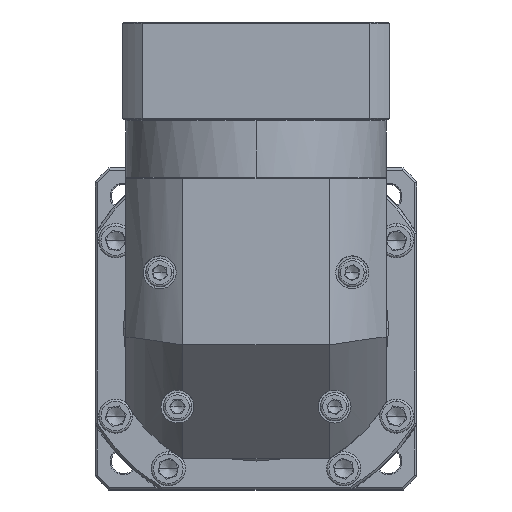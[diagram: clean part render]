
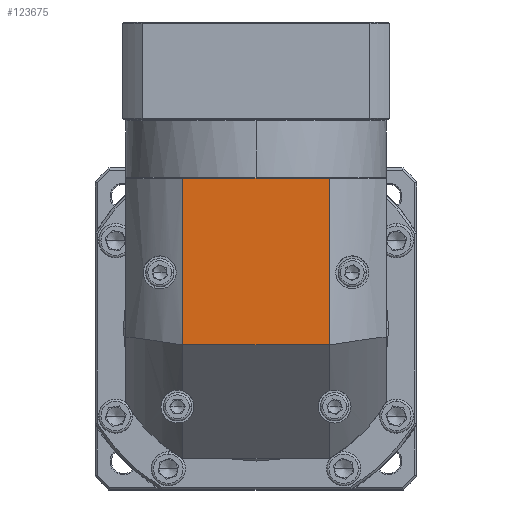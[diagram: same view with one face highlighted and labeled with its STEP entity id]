
A CAD part, top view. The second image highlights one B-rep face of the part: STEP entity #123675.
In plain terms, the highlighted planar face has unit normal (0, 0, 1).
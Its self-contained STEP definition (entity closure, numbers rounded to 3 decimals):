
#2142 = VECTOR ( 'NONE', #41126, 1000. ) ;
#3139 = LINE ( 'NONE', #100165, #77914 ) ;
#3140 = FACE_OUTER_BOUND ( 'NONE', #41715, .T. ) ;
#15648 = PLANE ( 'NONE',  #120924 ) ;
#19144 = DIRECTION ( 'NONE',  ( 0., 1., 0. ) ) ;
#22434 = EDGE_CURVE ( 'NONE', #68024, #34166, #3139, .T. ) ;
#27630 = CARTESIAN_POINT ( 'NONE',  ( -170.858, 70.502, 114.565 ) ) ;
#29277 = CARTESIAN_POINT ( 'NONE',  ( -138.458, 136.402, 114.565 ) ) ;
#30807 = CARTESIAN_POINT ( 'NONE',  ( -203.258, 63.002, 114.565 ) ) ;
#31025 = EDGE_CURVE ( 'NONE', #98092, #43967, #66219, .T. ) ;
#32603 = DIRECTION ( 'NONE',  ( 1., 0., 0. ) ) ;
#34166 = VERTEX_POINT ( 'NONE', #119505 ) ;
#39045 = DIRECTION ( 'NONE',  ( 1., 0., 0. ) ) ;
#41126 = DIRECTION ( 'NONE',  ( 0., -1., 0. ) ) ;
#41715 = EDGE_LOOP ( 'NONE', ( #118766, #92704, #141789, #87003 ) ) ;
#41972 = EDGE_CURVE ( 'NONE', #43967, #68024, #57571, .T. ) ;
#43967 = VERTEX_POINT ( 'NONE', #126816 ) ;
#45542 = CARTESIAN_POINT ( 'NONE',  ( -228.358, 136.402, 114.565 ) ) ;
#48965 = EDGE_CURVE ( 'NONE', #34166, #98092, #68398, .T. ) ;
#57571 = LINE ( 'NONE', #119935, #78737 ) ;
#66219 = LINE ( 'NONE', #76324, #2142 ) ;
#68024 = VERTEX_POINT ( 'NONE', #30807 ) ;
#68398 = LINE ( 'NONE', #45542, #109406 ) ;
#76324 = CARTESIAN_POINT ( 'NONE',  ( -138.458, 13.002, 114.565 ) ) ;
#77914 = VECTOR ( 'NONE', #19144, 1000. ) ;
#78737 = VECTOR ( 'NONE', #133278, 1000. ) ;
#87003 = ORIENTED_EDGE ( 'NONE', *, *, #48965, .F. ) ;
#92704 = ORIENTED_EDGE ( 'NONE', *, *, #41972, .F. ) ;
#98092 = VERTEX_POINT ( 'NONE', #29277 ) ;
#100165 = CARTESIAN_POINT ( 'NONE',  ( -203.258, 13.002, 114.565 ) ) ;
#107174 = DIRECTION ( 'NONE',  ( 0., 0., -1. ) ) ;
#109406 = VECTOR ( 'NONE', #32603, 1000. ) ;
#118766 = ORIENTED_EDGE ( 'NONE', *, *, #22434, .F. ) ;
#119505 = CARTESIAN_POINT ( 'NONE',  ( -203.258, 136.402, 114.565 ) ) ;
#119935 = CARTESIAN_POINT ( 'NONE',  ( -228.358, 63.002, 114.565 ) ) ;
#120924 = AXIS2_PLACEMENT_3D ( 'NONE', #27630, #107174, #39045 ) ;
#123675 = ADVANCED_FACE ( 'NONE', ( #3140 ), #15648, .F. ) ;
#126816 = CARTESIAN_POINT ( 'NONE',  ( -138.458, 63.002, 114.565 ) ) ;
#133278 = DIRECTION ( 'NONE',  ( -1., 0., 0. ) ) ;
#141789 = ORIENTED_EDGE ( 'NONE', *, *, #31025, .F. ) ;
